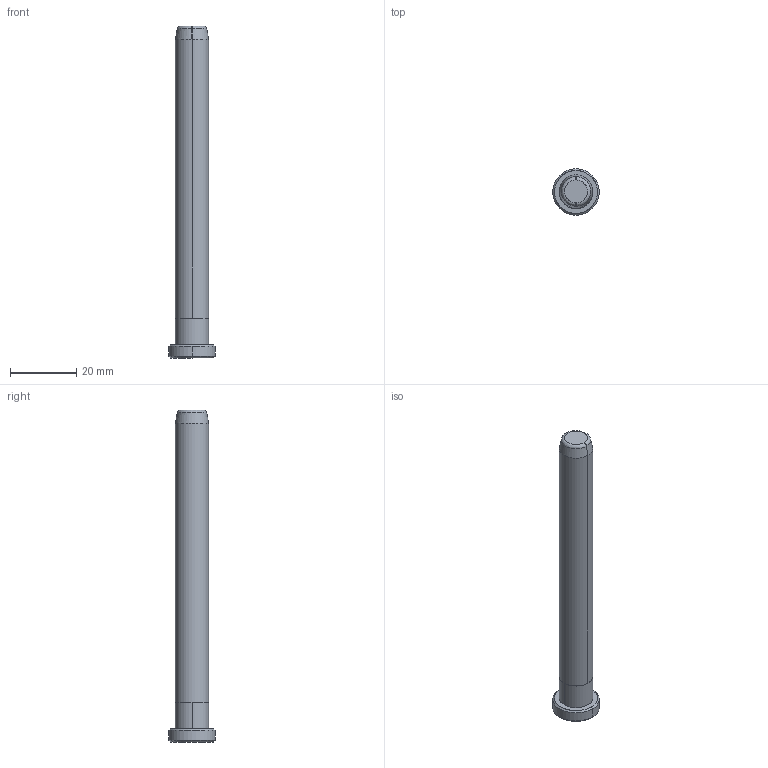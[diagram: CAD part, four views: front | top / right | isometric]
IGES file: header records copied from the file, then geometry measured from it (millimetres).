
Start section: START RECORD GO HERE.
Global section: file name: B80810100.igs; native system: DASSAULT SYSTEMES CATIA V5 R20 - www.3ds.com; preprocessor: CATIA Version 5 Release 20 ; author: Utente; organization: NB04-ASUS; date: 20200419.165536; units: millimetre
Bounding box: 14 x 14 x 100 mm (x, y, z)
Surface area: 3438.7 mm2 (no closed solid volume)
Topology: 0 solids, 0 shells, 20 faces, 80 edges, 80 vertices
Faces by surface type: revolution 16, plane 4
